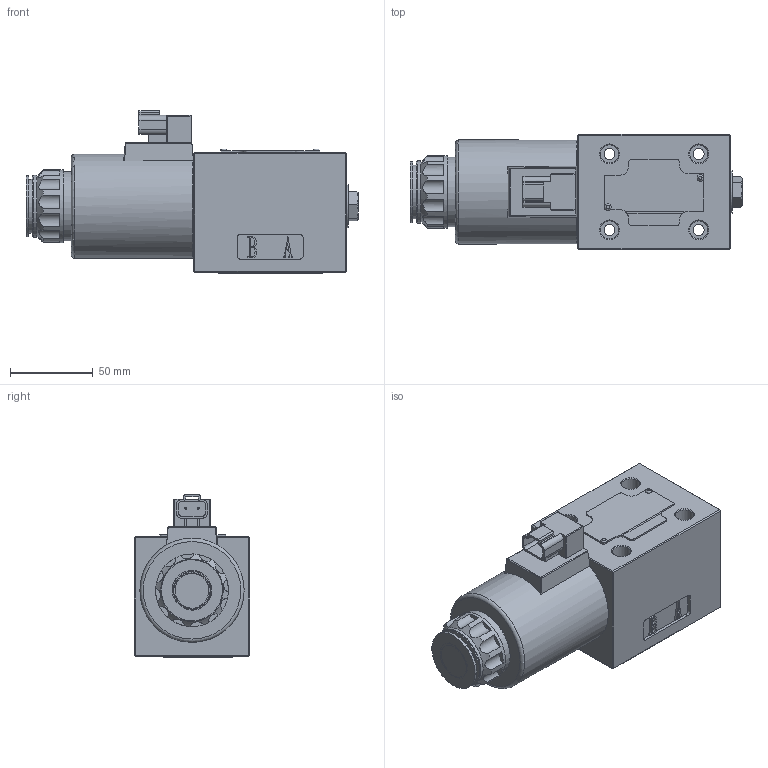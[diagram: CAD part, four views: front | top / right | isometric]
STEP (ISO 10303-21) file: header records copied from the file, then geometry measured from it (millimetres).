
FILE_DESCRIPTION(/* description */ (''),/* implementation_level */ '2;1');
FILE_NAME(/* name */ '4WE10-3XJ直流防水电磁阀（二位阀电磁铁在B端）.prt.stp',/* time_stamp */ '2022-03-30T19:34:06+08:00',/* author */ (''),/* organization */ (''),/* preprocessor_version */ 'ST-DEVELOPER v16.7',/* originating_system */ 'SIEMENS PLM Software NX 12.0',/* authorisation */ '');
FILE_SCHEMA (('AUTOMOTIVE_DESIGN { 1 0 10303 214 3 1 1 1 }'));
Length unit declared in the file: millimetre
Products named in the file (1): 4WE10-3XJ直流防水电磁阀（二位阀电磁铁在B
端）
Bounding box: 200.9 x 70 x 98.3 mm (x, y, z)
Volume: 768011.5 mm3; surface area: 130875.9 mm2
Topology: 21 solids, 29 shells, 977 faces, 2314 edges, 1484 vertices
Faces by surface type: plane 523, cylinder 270, torus 98, cone 63, bspline 19, sphere 3, extrusion 1
Full cylindrical faces by diameter (mm): 1.2 x2, 1.8 x4, 1.9 x2, 2 x8, 3 x1, 3.6 x6, 5 x1, 6 x1, 6.6 x4, 8 x6, 10 x4, 11 x7, 11.5 x6, 12 x2, 15 x6, 15.7 x5, 16.5 x1, 17 x1, 17.4 x18, 18 x27, 18.4 x1, 20.5 x2, 21 x2, 21.4 x1, 23 x1, 24 x1, 26 x2, 31.5 x3, 32.5 x1, 33 x1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
Entity records: 35420 total; most frequent: CARTESIAN_POINT 11737, DIRECTION 4365, ORIENTED_EDGE 3890, EDGE_CURVE 1945, AXIS2_PLACEMENT_3D 1621, VERTEX_POINT 1420, EDGE_LOOP 1382, VECTOR 1123
